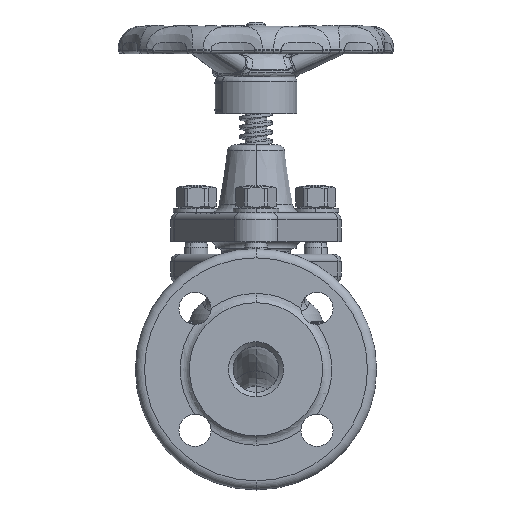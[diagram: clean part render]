
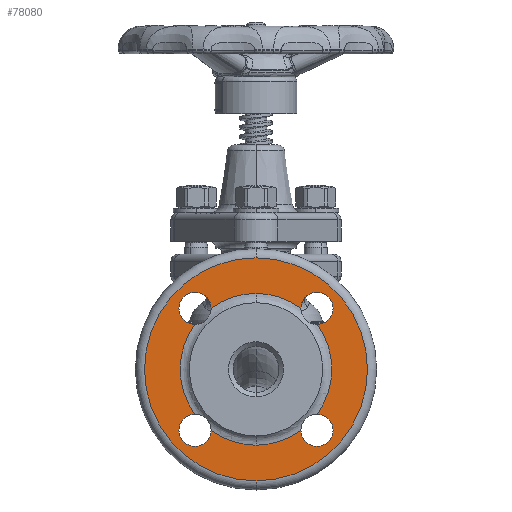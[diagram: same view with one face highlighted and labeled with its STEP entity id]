
A CAD part, left-side view. The second image highlights one B-rep face of the part: STEP entity #78080.
In plain terms, the highlighted planar face has unit normal (-1, 0, 0).
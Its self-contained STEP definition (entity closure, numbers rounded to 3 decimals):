
#20981=CARTESIAN_POINT('',(-73.,0.,0.));
#20982=DIRECTION('',(1.,0.,0.));
#20983=DIRECTION('',(0.,0.,-1.));
#20984=AXIS2_PLACEMENT_3D('',#20981,#20982,#20983);
#20986=CARTESIAN_POINT('',(-73.,0.,0.));
#20987=DIRECTION('',(1.,0.,0.));
#20988=DIRECTION('',(0.,0.,1.));
#20989=AXIS2_PLACEMENT_3D('',#20986,#20987,#20988);
#20991=CARTESIAN_POINT('',(-73.,-26.517,26.517));
#20992=DIRECTION('',(-1.,0.,0.));
#20993=DIRECTION('',(0.,-1.,0.));
#20994=AXIS2_PLACEMENT_3D('',#20991,#20992,#20993);
#20996=CARTESIAN_POINT('',(-73.,0.,0.));
#20997=DIRECTION('',(1.,0.,0.));
#20998=DIRECTION('',(0.,0.,1.));
#20999=AXIS2_PLACEMENT_3D('',#20996,#20997,#20998);
#21001=CARTESIAN_POINT('',(-73.,0.,0.));
#21002=DIRECTION('',(-1.,0.,0.));
#21003=DIRECTION('',(0.,0.,1.));
#21004=AXIS2_PLACEMENT_3D('',#21001,#21002,#21003);
#21006=CARTESIAN_POINT('',(-73.,26.517,26.517));
#21007=DIRECTION('',(-1.,0.,0.));
#21008=DIRECTION('',(0.,-1.,0.013));
#21009=AXIS2_PLACEMENT_3D('',#21006,#21007,#21008);
#21011=CARTESIAN_POINT('',(-73.,26.517,26.517));
#21012=DIRECTION('',(-1.,0.,0.));
#21013=DIRECTION('',(0.,1.,0.));
#21014=AXIS2_PLACEMENT_3D('',#21011,#21012,#21013);
#21016=CARTESIAN_POINT('',(-73.,0.,0.));
#21017=DIRECTION('',(-1.,0.,0.));
#21018=DIRECTION('',(0.,0.806,0.591));
#21019=AXIS2_PLACEMENT_3D('',#21016,#21017,#21018);
#21021=CARTESIAN_POINT('',(-73.,26.517,-26.517));
#21022=DIRECTION('',(-1.,0.,0.));
#21023=DIRECTION('',(0.,0.013,1.));
#21024=AXIS2_PLACEMENT_3D('',#21021,#21022,#21023);
#21026=CARTESIAN_POINT('',(-73.,26.517,-26.517));
#21027=DIRECTION('',(-1.,0.,0.));
#21028=DIRECTION('',(0.,1.,0.));
#21029=AXIS2_PLACEMENT_3D('',#21026,#21027,#21028);
#21031=CARTESIAN_POINT('',(-73.,0.,0.));
#21032=DIRECTION('',(-1.,0.,0.));
#21033=DIRECTION('',(0.,0.591,-0.806));
#21034=AXIS2_PLACEMENT_3D('',#21031,#21032,#21033);
#21036=CARTESIAN_POINT('',(-73.,0.,0.));
#21037=DIRECTION('',(1.,0.,0.));
#21038=DIRECTION('',(0.,-0.591,-0.806));
#21039=AXIS2_PLACEMENT_3D('',#21036,#21037,#21038);
#21041=CARTESIAN_POINT('',(-73.,-26.517,-26.517));
#21042=DIRECTION('',(-1.,0.,0.));
#21043=DIRECTION('',(0.,1.,-0.013));
#21044=AXIS2_PLACEMENT_3D('',#21041,#21042,#21043);
#21046=CARTESIAN_POINT('',(-73.,-26.517,-26.517));
#21047=DIRECTION('',(-1.,0.,0.));
#21048=DIRECTION('',(0.,-1.,0.));
#21049=AXIS2_PLACEMENT_3D('',#21046,#21047,#21048);
#21051=CARTESIAN_POINT('',(-73.,0.,0.));
#21052=DIRECTION('',(1.,0.,0.));
#21053=DIRECTION('',(0.,-0.806,0.591));
#21054=AXIS2_PLACEMENT_3D('',#21051,#21052,#21053);
#21056=CARTESIAN_POINT('',(-73.,-26.517,26.517));
#21057=DIRECTION('',(-1.,0.,0.));
#21058=DIRECTION('',(0.,-0.013,-1.));
#21059=AXIS2_PLACEMENT_3D('',#21056,#21057,#21058);
#21184=CARTESIAN_POINT('',(-73.,26.61,-19.517));
#21260=CARTESIAN_POINT('',(-73.,26.61,19.517));
#21262=CARTESIAN_POINT('',(-73.,19.517,26.61));
#21279=CARTESIAN_POINT('',(-73.,19.517,-26.61));
#33170=CARTESIAN_POINT('',(-73.,0.,-48.5));
#33171=CARTESIAN_POINT('',(-73.,0.,48.5));
#33172=VERTEX_POINT('',#33170);
#33173=VERTEX_POINT('',#33171);
#33212=CARTESIAN_POINT('',(-73.,0.,33.));
#33213=VERTEX_POINT('',#33212);
#33214=CARTESIAN_POINT('',(-73.,0.,-33.));
#33215=VERTEX_POINT('',#33214);
#33272=VERTEX_POINT('',#21262);
#33274=VERTEX_POINT('',#21260);
#33275=CARTESIAN_POINT('',(-73.,33.517,26.517));
#33276=VERTEX_POINT('',#33275);
#33281=VERTEX_POINT('',#21184);
#33283=VERTEX_POINT('',#21279);
#33284=CARTESIAN_POINT('',(-73.,33.517,-26.517));
#33285=VERTEX_POINT('',#33284);
#33290=CARTESIAN_POINT('',(-73.,-33.517,-26.517));
#33291=CARTESIAN_POINT('',(-73.,-26.61,-19.517));
#33292=VERTEX_POINT('',#33290);
#33293=VERTEX_POINT('',#33291);
#33294=CARTESIAN_POINT('',(-73.,-19.517,-26.61));
#33295=VERTEX_POINT('',#33294);
#33301=CARTESIAN_POINT('',(-73.,-33.517,26.517));
#33302=CARTESIAN_POINT('',(-73.,-19.517,26.61));
#33303=VERTEX_POINT('',#33301);
#33304=VERTEX_POINT('',#33302);
#33305=CARTESIAN_POINT('',(-73.,-26.61,19.517));
#33306=VERTEX_POINT('',#33305);
#78041=CARTESIAN_POINT('',(-73.,0.,0.));
#78042=DIRECTION('',(-1.,0.,0.));
#78043=DIRECTION('',(0.,0.,1.));
#78044=AXIS2_PLACEMENT_3D('',#78041,#78042,#78043);
#78045=PLANE('',#78044);
#78046=ORIENTED_EDGE('',*,*,#78023,.T.);
#78047=ORIENTED_EDGE('',*,*,#78008,.T.);
#78048=EDGE_LOOP('',(#78046,#78047));
#78049=FACE_OUTER_BOUND('',#78048,.F.);
#78051=ORIENTED_EDGE('',*,*,#78050,.T.);
#78053=ORIENTED_EDGE('',*,*,#78052,.F.);
#78055=ORIENTED_EDGE('',*,*,#78054,.T.);
#78057=ORIENTED_EDGE('',*,*,#78056,.T.);
#78059=ORIENTED_EDGE('',*,*,#78058,.T.);
#78061=ORIENTED_EDGE('',*,*,#78060,.T.);
#78063=ORIENTED_EDGE('',*,*,#78062,.T.);
#78065=ORIENTED_EDGE('',*,*,#78064,.T.);
#78067=ORIENTED_EDGE('',*,*,#78066,.T.);
#78069=ORIENTED_EDGE('',*,*,#78068,.F.);
#78071=ORIENTED_EDGE('',*,*,#78070,.T.);
#78073=ORIENTED_EDGE('',*,*,#78072,.T.);
#78075=ORIENTED_EDGE('',*,*,#78074,.F.);
#78077=ORIENTED_EDGE('',*,*,#78076,.T.);
#78078=EDGE_LOOP('',(#78051,#78053,#78055,#78057,#78059,#78061,#78063,#78065,
#78067,#78069,#78071,#78073,#78075,#78077));
#78079=FACE_BOUND('',#78078,.F.);
#78080=ADVANCED_FACE('',(#78049,#78079),#78045,.T.);
#20985=CIRCLE('',#20984,48.5);
#20990=CIRCLE('',#20989,48.5);
#20995=CIRCLE('',#20994,7.);
#21000=CIRCLE('',#20999,33.);
#21005=CIRCLE('',#21004,33.);
#21010=CIRCLE('',#21009,7.);
#21015=CIRCLE('',#21014,7.);
#21020=CIRCLE('',#21019,33.);
#21025=CIRCLE('',#21024,7.);
#21030=CIRCLE('',#21029,7.);
#21035=CIRCLE('',#21034,33.);
#21040=CIRCLE('',#21039,33.);
#21045=CIRCLE('',#21044,7.);
#21050=CIRCLE('',#21049,7.);
#21055=CIRCLE('',#21054,33.);
#21060=CIRCLE('',#21059,7.);
#78008=EDGE_CURVE('',#33173,#33172,#20990,.T.);
#78023=EDGE_CURVE('',#33172,#33173,#20985,.T.);
#78050=EDGE_CURVE('',#33303,#33304,#20995,.T.);
#78052=EDGE_CURVE('',#33213,#33304,#21000,.T.);
#78054=EDGE_CURVE('',#33213,#33272,#21005,.T.);
#78056=EDGE_CURVE('',#33272,#33276,#21010,.T.);
#78058=EDGE_CURVE('',#33276,#33274,#21015,.T.);
#78060=EDGE_CURVE('',#33274,#33281,#21020,.T.);
#78062=EDGE_CURVE('',#33281,#33285,#21025,.T.);
#78064=EDGE_CURVE('',#33285,#33283,#21030,.T.);
#78066=EDGE_CURVE('',#33283,#33215,#21035,.T.);
#78068=EDGE_CURVE('',#33295,#33215,#21040,.T.);
#78070=EDGE_CURVE('',#33295,#33292,#21045,.T.);
#78072=EDGE_CURVE('',#33292,#33293,#21050,.T.);
#78074=EDGE_CURVE('',#33306,#33293,#21055,.T.);
#78076=EDGE_CURVE('',#33306,#33303,#21060,.T.);
